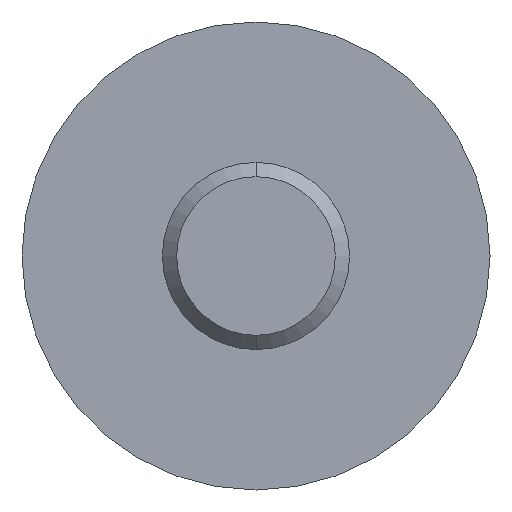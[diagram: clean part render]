
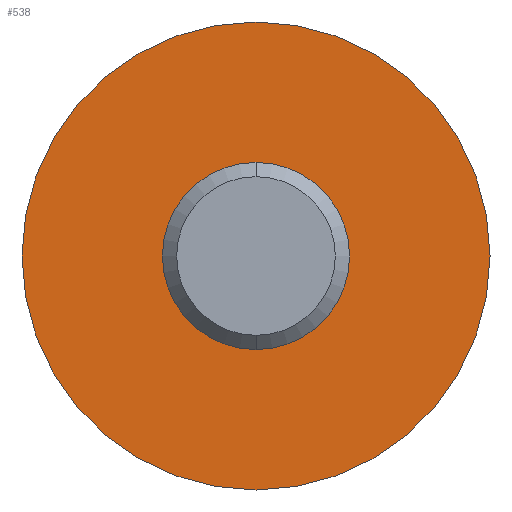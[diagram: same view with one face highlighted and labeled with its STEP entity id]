
A CAD part, front view. The second image highlights one B-rep face of the part: STEP entity #538.
In plain terms, the highlighted planar face has unit normal (0, -1, 0).
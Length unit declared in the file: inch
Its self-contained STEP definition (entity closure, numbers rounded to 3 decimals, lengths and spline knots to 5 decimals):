
#16 = PLANE ( 'NONE',  #657 ) ;
#23 = CARTESIAN_POINT ( 'NONE',  ( 0., 0., 0. ) ) ;
#24 = FACE_OUTER_BOUND ( 'NONE', #220, .T. ) ;
#29 = DIRECTION ( 'NONE',  ( 0., 1., 0. ) ) ;
#86 = ORIENTED_EDGE ( 'NONE', *, *, #523, .F. ) ;
#87 = ORIENTED_EDGE ( 'NONE', *, *, #517, .F. ) ;
#88 = ORIENTED_EDGE ( 'NONE', *, *, #578, .F. ) ;
#89 = ORIENTED_EDGE ( 'NONE', *, *, #583, .F. ) ;
#150 = VERTEX_POINT ( 'NONE', #181 ) ;
#155 = EDGE_LOOP ( 'NONE', ( #87, #86 ) ) ;
#160 = VERTEX_POINT ( 'NONE', #289 ) ;
#181 = CARTESIAN_POINT ( 'NONE',  ( 0., 0., -0.49213 ) ) ;
#213 = VERTEX_POINT ( 'NONE', #262 ) ;
#220 = EDGE_LOOP ( 'NONE', ( #89, #88 ) ) ;
#237 = CARTESIAN_POINT ( 'NONE',  ( 0., 0., 0.49213 ) ) ;
#262 = CARTESIAN_POINT ( 'NONE',  ( 0., 0., -0.19685 ) ) ;
#264 = DIRECTION ( 'NONE',  ( 0., -1., 0. ) ) ;
#267 = DIRECTION ( 'NONE',  ( 0., 0., 1. ) ) ;
#271 = DIRECTION ( 'NONE',  ( 0., 0., 1. ) ) ;
#279 = CARTESIAN_POINT ( 'NONE',  ( 0., 0., 0. ) ) ;
#289 = CARTESIAN_POINT ( 'NONE',  ( 0., 0., 0.19685 ) ) ;
#364 = VERTEX_POINT ( 'NONE', #237 ) ;
#371 = DIRECTION ( 'NONE',  ( 0., 0., 1. ) ) ;
#372 = DIRECTION ( 'NONE',  ( 0., -1., 0. ) ) ;
#373 = CARTESIAN_POINT ( 'NONE',  ( 0., 0., 0. ) ) ;
#402 = FACE_BOUND ( 'NONE', #155, .T. ) ;
#437 = CARTESIAN_POINT ( 'NONE',  ( 0., 0., 0. ) ) ;
#440 = DIRECTION ( 'NONE',  ( 0., 0., 1. ) ) ;
#442 = DIRECTION ( 'NONE',  ( 0., 1., 0. ) ) ;
#455 = DIRECTION ( 'NONE',  ( 0., 1., 0. ) ) ;
#457 = CARTESIAN_POINT ( 'NONE',  ( 0., 0., 0. ) ) ;
#460 = DIRECTION ( 'NONE',  ( 0., 0., 1. ) ) ;
#517 = EDGE_CURVE ( 'NONE', #160, #213, #636, .T. ) ;
#523 = EDGE_CURVE ( 'NONE', #213, #160, #692, .T. ) ;
#538 = ADVANCED_FACE ( 'NONE', ( #24, #402 ), #16, .F. ) ;
#578 = EDGE_CURVE ( 'NONE', #364, #150, #647, .T. ) ;
#583 = EDGE_CURVE ( 'NONE', #150, #364, #704, .T. ) ;
#636 = CIRCLE ( 'NONE', #706, 0.19685 ) ;
#646 = AXIS2_PLACEMENT_3D ( 'NONE', #279, #264, #267 ) ;
#647 = CIRCLE ( 'NONE', #703, 0.49213 ) ;
#657 = AXIS2_PLACEMENT_3D ( 'NONE', #23, #29, #271 ) ;
#663 = AXIS2_PLACEMENT_3D ( 'NONE', #457, #455, #460 ) ;
#692 = CIRCLE ( 'NONE', #646, 0.19685 ) ;
#703 = AXIS2_PLACEMENT_3D ( 'NONE', #437, #442, #440 ) ;
#704 = CIRCLE ( 'NONE', #663, 0.49213 ) ;
#706 = AXIS2_PLACEMENT_3D ( 'NONE', #373, #372, #371 ) ;
